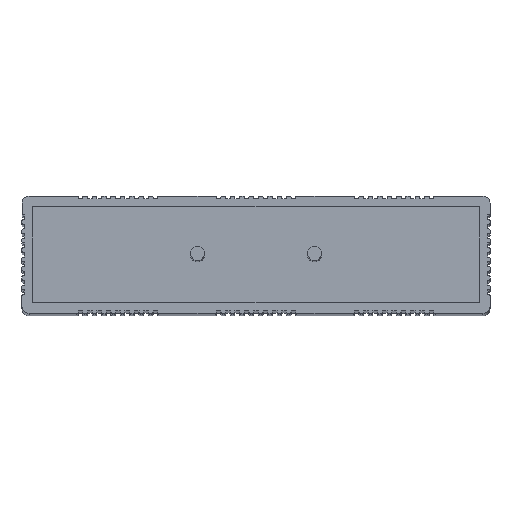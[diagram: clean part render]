
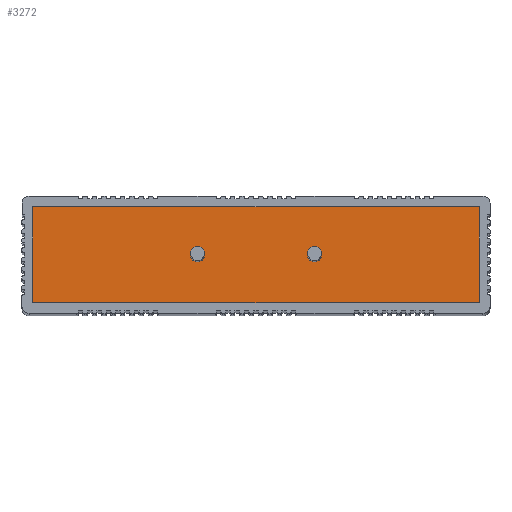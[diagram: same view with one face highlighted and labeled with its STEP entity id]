
A CAD part, top view. The second image highlights one B-rep face of the part: STEP entity #3272.
In plain terms, the highlighted planar face has unit normal (0, 0, 1).
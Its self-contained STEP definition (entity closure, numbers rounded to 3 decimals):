
#505 = CARTESIAN_POINT ( 'NONE',  ( -25., 0., 305. ) ) ;
#637 = DIRECTION ( 'NONE',  ( -1., 0., 0. ) ) ;
#791 = CIRCLE ( 'NONE', #3597, 3. ) ;
#1093 = CARTESIAN_POINT ( 'NONE',  ( 95.5, 20.5, 305. ) ) ;
#1130 = DIRECTION ( 'NONE',  ( 0., -1., 0. ) ) ;
#1812 = CARTESIAN_POINT ( 'NONE',  ( 95.5, 20.5, 305. ) ) ;
#1823 = VERTEX_POINT ( 'NONE', #1812 ) ;
#2482 = CARTESIAN_POINT ( 'NONE',  ( -25., 0., 305. ) ) ;
#3272 = ADVANCED_FACE ( 'NONE', ( #12191, #22825, #27643 ), #7659, .T. ) ;
#3293 = LINE ( 'NONE', #1093, #14716 ) ;
#3597 = AXIS2_PLACEMENT_3D ( 'NONE', #2482, #19858, #6728 ) ;
#4381 = EDGE_CURVE ( 'NONE', #9499, #17383, #17795, .T. ) ;
#4535 = EDGE_CURVE ( 'NONE', #20683, #14566, #10272, .T. ) ;
#4586 = ORIENTED_EDGE ( 'NONE', *, *, #18065, .T. ) ;
#4752 = EDGE_LOOP ( 'NONE', ( #14102, #23143 ) ) ;
#5731 = CARTESIAN_POINT ( 'NONE',  ( 22., 0., 305. ) ) ;
#6728 = DIRECTION ( 'NONE',  ( -1., 0., 0. ) ) ;
#6991 = EDGE_CURVE ( 'NONE', #13375, #22594, #22720, .T. ) ;
#7550 = DIRECTION ( 'NONE',  ( 0., 1., 0. ) ) ;
#7659 = PLANE ( 'NONE',  #16614 ) ;
#7862 = EDGE_LOOP ( 'NONE', ( #25280, #24553, #12353, #24565 ) ) ;
#8069 = DIRECTION ( 'NONE',  ( -1., 0., 0. ) ) ;
#9499 = VERTEX_POINT ( 'NONE', #22305 ) ;
#10104 = EDGE_CURVE ( 'NONE', #22594, #1823, #3293, .T. ) ;
#10272 = CIRCLE ( 'NONE', #13077, 3. ) ;
#10520 = EDGE_CURVE ( 'NONE', #17530, #13375, #23651, .T. ) ;
#10932 = CARTESIAN_POINT ( 'NONE',  ( 28., 0., 305. ) ) ;
#11480 = AXIS2_PLACEMENT_3D ( 'NONE', #16804, #16664, #8069 ) ;
#11497 = CARTESIAN_POINT ( 'NONE',  ( -95.5, -20.5, 305. ) ) ;
#11917 = DIRECTION ( 'NONE',  ( -1., 0., 0. ) ) ;
#11933 = VECTOR ( 'NONE', #16926, 1000. ) ;
#12178 = CARTESIAN_POINT ( 'NONE',  ( 25., 0., 305. ) ) ;
#12191 = FACE_OUTER_BOUND ( 'NONE', #7862, .T. ) ;
#12353 = ORIENTED_EDGE ( 'NONE', *, *, #22669, .F. ) ;
#12713 = AXIS2_PLACEMENT_3D ( 'NONE', #505, #20788, #11917 ) ;
#13077 = AXIS2_PLACEMENT_3D ( 'NONE', #12178, #18582, #637 ) ;
#13375 = VERTEX_POINT ( 'NONE', #25370 ) ;
#14102 = ORIENTED_EDGE ( 'NONE', *, *, #4535, .T. ) ;
#14566 = VERTEX_POINT ( 'NONE', #10932 ) ;
#14716 = VECTOR ( 'NONE', #25322, 1000. ) ;
#14722 = CARTESIAN_POINT ( 'NONE',  ( 95.5, -20.5, 305. ) ) ;
#15972 = DIRECTION ( 'NONE',  ( 1., 0., 0. ) ) ;
#16196 = VECTOR ( 'NONE', #7550, 1000. ) ;
#16614 = AXIS2_PLACEMENT_3D ( 'NONE', #27503, #23270, #15972 ) ;
#16648 = EDGE_LOOP ( 'NONE', ( #17456, #4586 ) ) ;
#16664 = DIRECTION ( 'NONE',  ( 0., 0., -1. ) ) ;
#16804 = CARTESIAN_POINT ( 'NONE',  ( 25., 0., 305. ) ) ;
#16926 = DIRECTION ( 'NONE',  ( -1., 0., 0. ) ) ;
#17383 = VERTEX_POINT ( 'NONE', #25451 ) ;
#17456 = ORIENTED_EDGE ( 'NONE', *, *, #4381, .T. ) ;
#17529 = CIRCLE ( 'NONE', #11480, 3. ) ;
#17530 = VERTEX_POINT ( 'NONE', #26177 ) ;
#17795 = CIRCLE ( 'NONE', #12713, 3. ) ;
#17911 = VECTOR ( 'NONE', #1130, 1000. ) ;
#18065 = EDGE_CURVE ( 'NONE', #17383, #9499, #791, .T. ) ;
#18582 = DIRECTION ( 'NONE',  ( 0., 0., -1. ) ) ;
#18988 = EDGE_CURVE ( 'NONE', #14566, #20683, #17529, .T. ) ;
#19858 = DIRECTION ( 'NONE',  ( 0., 0., -1. ) ) ;
#20683 = VERTEX_POINT ( 'NONE', #5731 ) ;
#20788 = DIRECTION ( 'NONE',  ( 0., 0., -1. ) ) ;
#22305 = CARTESIAN_POINT ( 'NONE',  ( -28., 0., 305. ) ) ;
#22594 = VERTEX_POINT ( 'NONE', #25219 ) ;
#22669 = EDGE_CURVE ( 'NONE', #1823, #17530, #23176, .T. ) ;
#22720 = LINE ( 'NONE', #11497, #16196 ) ;
#22825 = FACE_BOUND ( 'NONE', #16648, .T. ) ;
#23143 = ORIENTED_EDGE ( 'NONE', *, *, #18988, .T. ) ;
#23176 = LINE ( 'NONE', #14722, #17911 ) ;
#23270 = DIRECTION ( 'NONE',  ( 0., 0., 1. ) ) ;
#23503 = CARTESIAN_POINT ( 'NONE',  ( 95.5, -20.5, 305. ) ) ;
#23651 = LINE ( 'NONE', #23503, #11933 ) ;
#24553 = ORIENTED_EDGE ( 'NONE', *, *, #10520, .F. ) ;
#24565 = ORIENTED_EDGE ( 'NONE', *, *, #10104, .F. ) ;
#25219 = CARTESIAN_POINT ( 'NONE',  ( -95.5, 20.5, 305. ) ) ;
#25280 = ORIENTED_EDGE ( 'NONE', *, *, #6991, .F. ) ;
#25322 = DIRECTION ( 'NONE',  ( 1., 0., 0. ) ) ;
#25370 = CARTESIAN_POINT ( 'NONE',  ( -95.5, -20.5, 305. ) ) ;
#25451 = CARTESIAN_POINT ( 'NONE',  ( -22., 0., 305. ) ) ;
#26177 = CARTESIAN_POINT ( 'NONE',  ( 95.5, -20.5, 305. ) ) ;
#27503 = CARTESIAN_POINT ( 'NONE',  ( 0., 0., 305. ) ) ;
#27643 = FACE_BOUND ( 'NONE', #4752, .T. ) ;
